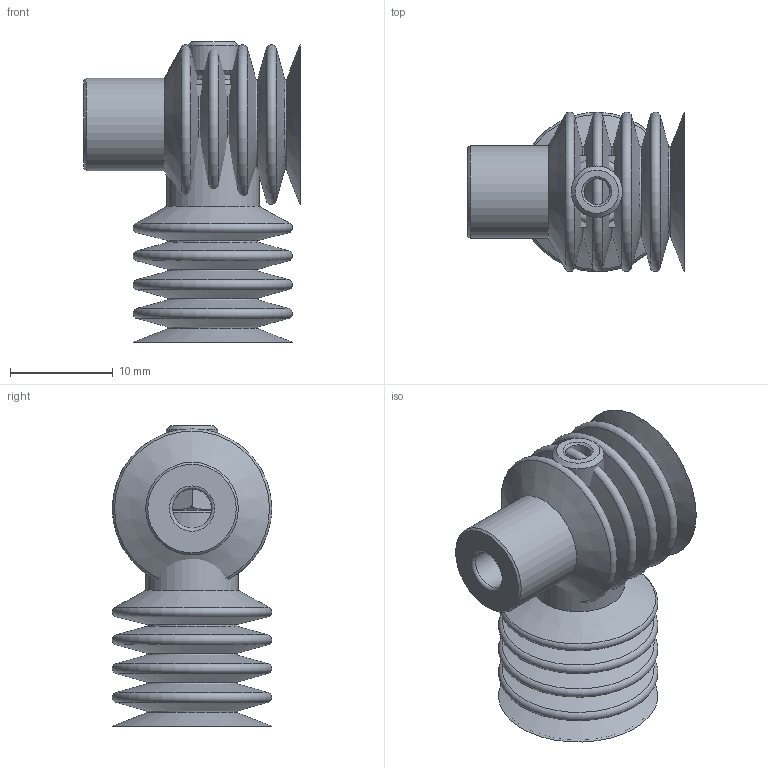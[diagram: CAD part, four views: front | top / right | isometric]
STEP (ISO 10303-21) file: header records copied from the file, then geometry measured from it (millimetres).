
FILE_DESCRIPTION( ( 'Unknown' ), '1' );
FILE_NAME( 'C:/Documents and Settings/茄惫春概平/官帕 拳搁/VBL15/VBL15-M5M.stp', 'Unknown', ( 'Unknown' ), ( 'Unknown' ), 'PSStep 10.0', 'Unknown', ' ' );
FILE_SCHEMA( ( 'automotive_design' ) );
Length unit declared in the file: millimetre
Products named in the file (3): Assem1; Fitting-M5M(1); VBL15
Bounding box: 21 x 15.5 x 29.2 mm (x, y, z)
Volume: 2504.6 mm3; surface area: 6916.4 mm2
Topology: 4 solids, 4 shells, 160 faces, 346 edges, 206 vertices
Faces by surface type: cone 52, plane 48, torus 42, cylinder 16, revolution 2
Full cylindrical faces by diameter (mm): 2.5 x4, 3.8 x2, 4 x4, 4.2 x2, 5 x2, 9 x2
Entity records: 2279 total; most frequent: CARTESIAN_POINT 423, DIRECTION 339, ORIENTED_EDGE 226, AXIS2_PLACEMENT_3D 157, EDGE_LOOP 140, EDGE_CURVE 113, FACE_OUTER_BOUND 108, VERTEX_POINT 95
